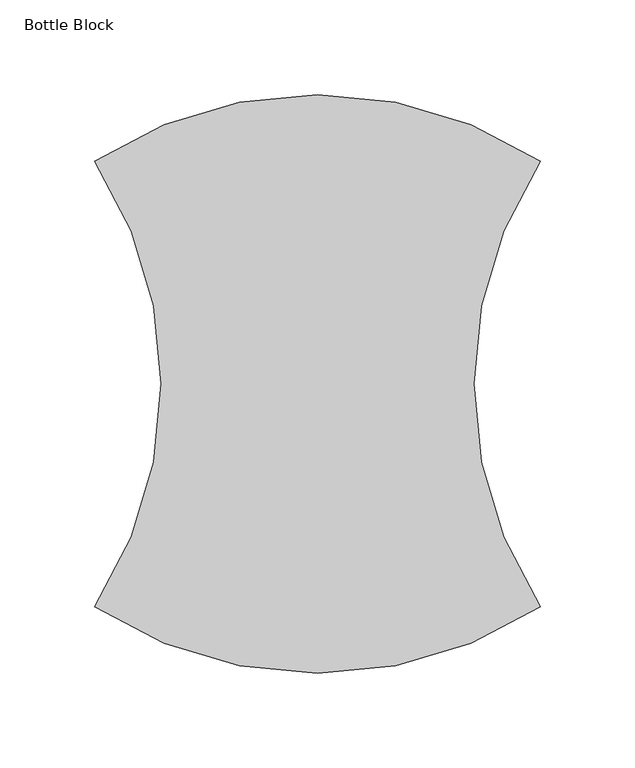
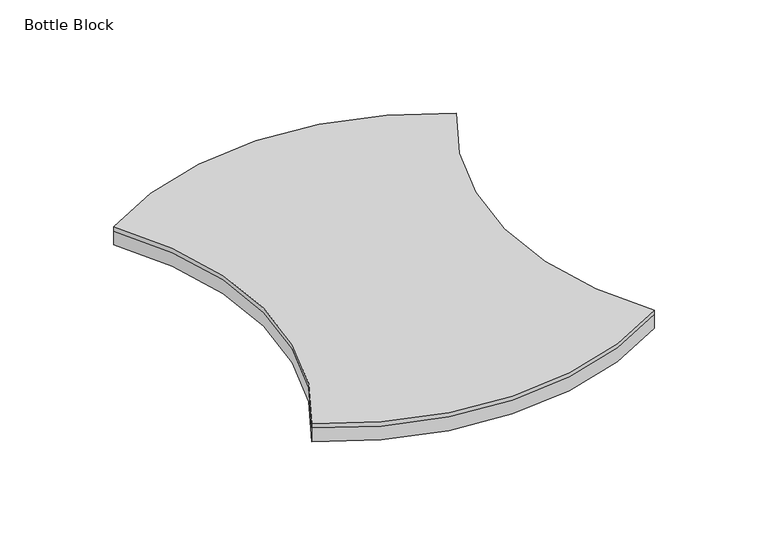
"""IFC4 building model written with IfcOpenShell, lengths in millimetres: proxy geometry, FilzFelt_Bottle_Block : Bottle Block."""

from ifc_helpers import new_model, si_unit, frame, origin, place, context, project, spatial, polyline, circle_curve, source, transform, mapped, element, save
from ifc_brep_helpers import plane_surface, cylinder_surface, revolved_surface, advanced_brep


def bottle_block_542249b9(model_context):
    return source(origin(), model_context, "Body", "AdvancedBrep", [
        advanced_brep(
        [(117.475, 117.475, 10.0210937), (117.475, -117.475, 10.0210937), (-117.475, -117.475, 10.0210937), (-117.475, 117.475, 10.0210937), (-117.475, 117.475, 12.9976563), (-117.475, -117.475, 12.9976563), (0.0, -152.4, 12.9976563), (117.475, -117.475, 12.9976563), (117.475, 117.475, 12.9976563), (0.0, 152.4, 12.9976563)],
        [
            (0, 1, circle_curve(frame((297.5840909, 0.0, 10.0210937), z_axis=(0.0, 0.0, 1.0), x_axis=(-1.0, 0.0, 0.0)), 215.0340909)),
            (1, 2, circle_curve(frame((0.0, 62.6340909, 10.0210937), z_axis=(0.0, 0.0, -1.0), x_axis=(-1.0, 0.0, 0.0)), 215.0340909)),
            (2, 3, circle_curve(frame((-297.5840909, 0.0, 10.0210937), z_axis=(0.0, 0.0, 1.0), x_axis=(-1.0, 0.0, 0.0)), 215.0340909)),
            (3, 0, circle_curve(frame((0.0, -62.6340909, 10.0210937), z_axis=(0.0, 0.0, -1.0), x_axis=(-1.0, 0.0, 0.0)), 215.0340909)),
            (4, 5, circle_curve(frame((-297.5840909, 0.0, 12.9976563), z_axis=(0.0, 0.0, -1.0), x_axis=(-1.0, 0.0, 0.0)), 215.0340909)),
            (5, 6, circle_curve(frame((0.0, 62.6340909, 12.9976563), z_axis=(0.0, 0.0, 1.0), x_axis=(-1.0, 0.0, 0.0)), 215.0340909)),
            (6, 7, circle_curve(frame((0.0, 62.6340909, 12.9976563), z_axis=(0.0, 0.0, 1.0), x_axis=(-1.0, 0.0, 0.0)), 215.0340909)),
            (7, 8, circle_curve(frame((297.5840909, 0.0, 12.9976563), z_axis=(0.0, 0.0, -1.0), x_axis=(-1.0, 0.0, 0.0)), 215.0340909)),
            (8, 9, circle_curve(frame((0.0, -62.6340909, 12.9976563), z_axis=(0.0, 0.0, 1.0), x_axis=(-1.0, 0.0, 0.0)), 215.0340909)),
            (9, 4, circle_curve(frame((0.0, -62.6340909, 12.9976563), z_axis=(0.0, 0.0, 1.0), x_axis=(-1.0, 0.0, 0.0)), 215.0340909)),
            (0, 8),
            (7, 1),
            (5, 2),
            (4, 3),
        ],
        [
            plane_surface(frame((0.0, 0.0, 10.0210937), z_axis=(0.0, 0.0, -1.0), x_axis=(0.0, -1.0, 0.0))),
            plane_surface(frame((0.0, 0.0, 12.9976563), z_axis=(0.0, 0.0, 1.0), x_axis=(0.0, -1.0, 0.0))),
            revolved_surface(polyline([(82.54999999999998, 0.0, 12.9976563), (82.54999999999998, 0.0, 10.0210937)]), (297.5840909, 0.0, 10.0210937), (0.0, 0.0, 1.0)),
            cylinder_surface(frame((0.0, 62.6340909, 10.0210937), z_axis=(0.0, 0.0, -1.0), x_axis=(-1.0, 0.0, 0.0)), 215.0340909),
            revolved_surface(polyline([(-512.6181818, 0.0, 12.9976563), (-512.6181818, 0.0, 10.0210937)]), (-297.5840909, 0.0, 10.0210937), (0.0, 0.0, 1.0)),
            cylinder_surface(frame((0.0, -62.6340909, 10.0210937), z_axis=(0.0, 0.0, -1.0), x_axis=(-1.0, 0.0, 0.0)), 215.0340909),
        ],
        [
            (0, [[1, 2, 3, 4]]),
            (1, [[5, 6, 7, 8, 9, 10]]),
            (2, [[-1, 11, -8, 12]]),
            (3, [[-2, -12, -7, -6, 13]]),
            (4, [[-3, -13, -5, 14]]),
            (5, [[-4, -14, -10, -9, -11]]),
        ],
    ),
        advanced_brep(
        [(117.475, 117.475, 0.0), (117.475, -117.475, 0.0), (0.0, -152.4, 0.0), (-117.475, -117.475, 0.0), (-117.475, 117.475, 0.0), (0.0, 152.4, 0.0), (117.475, 117.475, 10.0210937), (-117.475, 117.475, 10.0210937), (-117.475, -117.475, 10.0210937), (117.475, -117.475, 10.0210937)],
        [
            (0, 1, circle_curve(frame((297.5840909, 0.0, 0.0), z_axis=(0.0, 0.0, 1.0), x_axis=(-1.0, 0.0, 0.0)), 215.0340909)),
            (1, 2, circle_curve(frame((0.0, 62.6340909, 0.0), z_axis=(0.0, 0.0, -1.0), x_axis=(-1.0, 0.0, 0.0)), 215.0340909)),
            (2, 3, circle_curve(frame((0.0, 62.6340909, 0.0), z_axis=(0.0, 0.0, -1.0), x_axis=(-1.0, 0.0, 0.0)), 215.0340909)),
            (3, 4, circle_curve(frame((-297.5840909, 0.0, 0.0), z_axis=(0.0, 0.0, 1.0), x_axis=(-1.0, 0.0, 0.0)), 215.0340909)),
            (4, 5, circle_curve(frame((0.0, -62.6340909, 0.0), z_axis=(0.0, 0.0, -1.0), x_axis=(-1.0, 0.0, 0.0)), 215.0340909)),
            (5, 0, circle_curve(frame((0.0, -62.6340909, 0.0), z_axis=(0.0, 0.0, -1.0), x_axis=(-1.0, 0.0, 0.0)), 215.0340909)),
            (6, 7, circle_curve(frame((0.0, -62.6340909, 10.0210937), z_axis=(0.0, 0.0, 1.0), x_axis=(-1.0, 0.0, 0.0)), 215.0340909)),
            (7, 8, circle_curve(frame((-297.5840909, 0.0, 10.0210937), z_axis=(0.0, 0.0, -1.0), x_axis=(-1.0, 0.0, 0.0)), 215.0340909)),
            (8, 9, circle_curve(frame((0.0, 62.6340909, 10.0210937), z_axis=(0.0, 0.0, 1.0), x_axis=(-1.0, 0.0, 0.0)), 215.0340909)),
            (9, 6, circle_curve(frame((297.5840909, 0.0, 10.0210937), z_axis=(0.0, 0.0, -1.0), x_axis=(-1.0, 0.0, 0.0)), 215.0340909)),
            (0, 6),
            (9, 1),
            (8, 3),
            (7, 4),
        ],
        [
            plane_surface(frame((0.0, 0.0, 0.0), z_axis=(0.0, 0.0, -1.0), x_axis=(0.0, -1.0, 0.0))),
            plane_surface(frame((0.0, 0.0, 10.0210937), z_axis=(0.0, 0.0, 1.0), x_axis=(0.0, -1.0, 0.0))),
            revolved_surface(polyline([(82.54999999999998, 0.0, 10.0210937), (82.54999999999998, 0.0, 0.0)]), (297.5840909, 0.0, 0.0), (0.0, 0.0, 1.0)),
            cylinder_surface(frame((0.0, 62.6340909, 0.0), z_axis=(0.0, 0.0, -1.0), x_axis=(-1.0, 0.0, 0.0)), 215.0340909),
            revolved_surface(polyline([(-512.6181818, 0.0, 10.0210937), (-512.6181818, 0.0, 0.0)]), (-297.5840909, 0.0, 0.0), (0.0, 0.0, 1.0)),
            cylinder_surface(frame((0.0, -62.6340909, 0.0), z_axis=(0.0, 0.0, -1.0), x_axis=(-1.0, 0.0, 0.0)), 215.0340909),
        ],
        [
            (0, [[1, 2, 3, 4, 5, 6]]),
            (1, [[7, 8, 9, 10]]),
            (2, [[-1, 11, -10, 12]]),
            (3, [[-9, 13, -3, -2, -12]]),
            (4, [[-4, -13, -8, 14]]),
            (5, [[-7, -11, -6, -5, -14]]),
        ],
    ),
    ])


if __name__ == "__main__":
    model = new_model("IFC4")
    model_context = context("Model", 3, world=origin())
    ifc_project = project(units=[si_unit("LENGTHUNIT", "METRE", prefix="MILLI")], contexts=[model_context])
    site = spatial("IfcSite", under=ifc_project)
    building = spatial("IfcBuilding", under=site)
    placement = place(None, origin())
    bottle_block_shape = bottle_block_542249b9(model_context)
    element("IfcBuildingElementProxy", 1, Name="FilzFelt_Bottle_Block : Bottle Block", ObjectType="FilzFelt_Bottle_Block : Bottle Block", at=placement, inside=building, context=model_context, shape_type="MappedRepresentation", body=[
        mapped(bottle_block_shape, transform((0.0, 0.0, 0.0), x_axis=(1.0, 0.0, 0.0), y_axis=(0.0, 1.0, 0.0), z_axis=(0.0, 0.0, 1.0))),
    ])
    save(model, "model.ifc")
